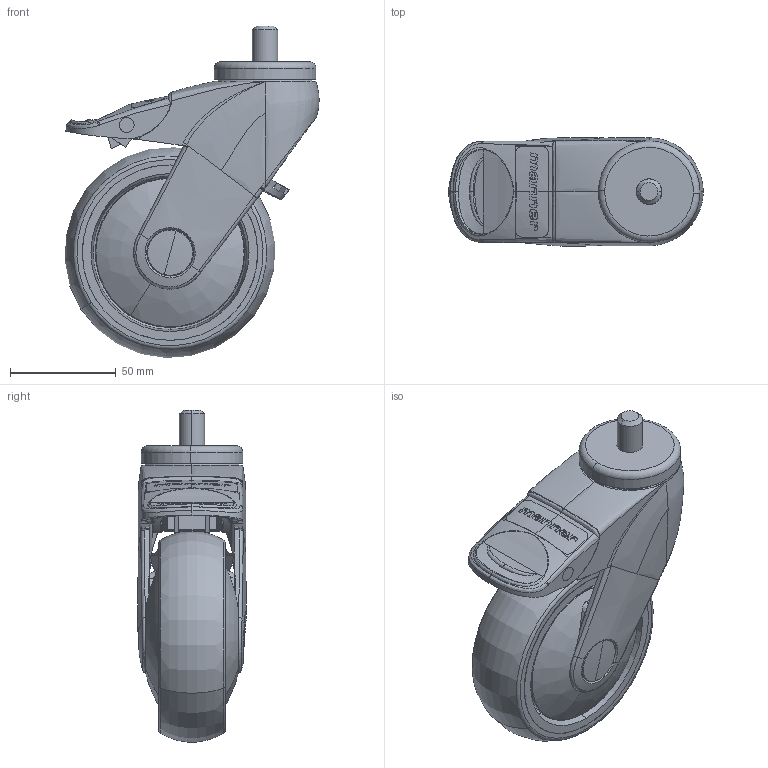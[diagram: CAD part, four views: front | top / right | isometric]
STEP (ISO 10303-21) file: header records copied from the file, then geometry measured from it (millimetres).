
FILE_DESCRIPTION (( 'STEP AP203' ), '1' );
FILE_NAME ('301772_STEP.STEP', '2011-06-20T07:05:45', ( '' ), ( '' ), 'SwSTEP 2.0', 'SolidWorks 2011', '' );
FILE_SCHEMA (( 'CONFIG_CONTROL_DESIGN' ));
Length unit declared in the file: millimetre
Products named in the file (1): 301772_STEP
Bounding box: 120.31 x 51.27 x 157.12 mm (x, y, z)
Surface area: 89744.5 mm2 (no closed solid volume)
Topology: 0 solids, 27 shells, 604 faces, 3253 edges, 2595 vertices
Faces by surface type: bspline 315, plane 132, cylinder 95, cone 34, torus 28
Entity records: 82226 total; most frequent: CARTESIAN_POINT 62571, ORIENTED_EDGE 5372, EDGE_CURVE 3243, VERTEX_POINT 2595, B_SPLINE_CURVE_WITH_KNOTS 2206, DIRECTION 1768, EDGE_LOOP 628, AXIS2_PLACEMENT_3D 607
